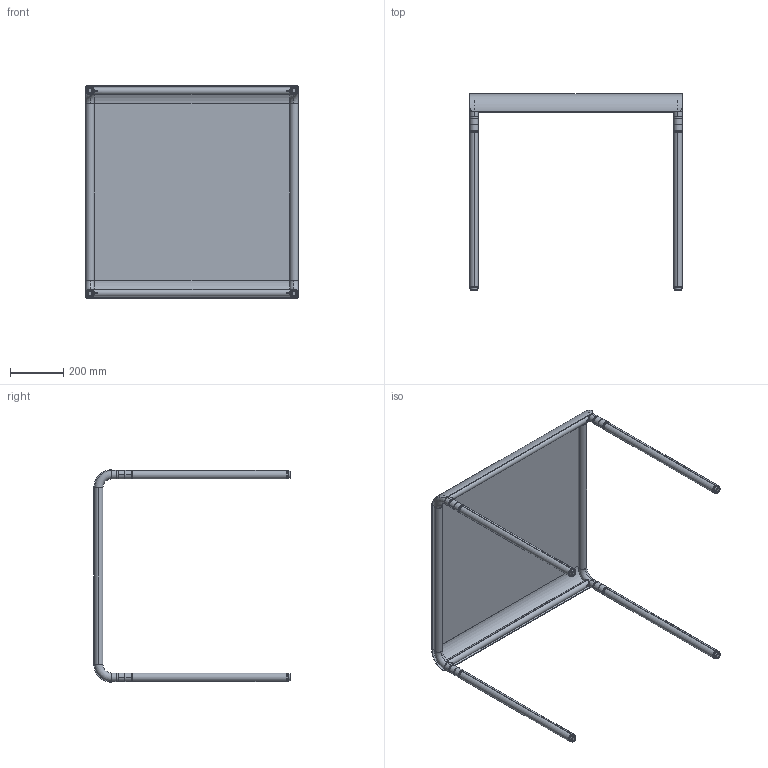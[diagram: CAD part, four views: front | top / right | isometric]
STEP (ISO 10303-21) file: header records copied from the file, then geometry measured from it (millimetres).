
FILE_DESCRIPTION (( 'STEP AP203' ), '1' );
FILE_NAME ('FER-00070.STEP', '2024-09-08T02:59:16', ( '' ), ( '' ), 'SwSTEP 2.0', 'SolidWorks 2018', '' );
FILE_SCHEMA (( 'CONFIG_CONTROL_DESIGN' ));
Length unit declared in the file: millimetre
Products named in the file (13): FER-00070-1-2-2; FER-00069-2_Defaut; FER-00069-2-2; FER-00070-1-2-1_Default<As Machined>; FER-00070-1-3_Default<As Machined>; NNB8X30-25X8_NCBDM8x30; FER-00070; FER-00069-2-1_Default<As Machined>; FER-00070-1_Defaut; FER-00070-1-2_Defaut; FER-00070-1-1_Without Hole; FER-00069-2-3; TR8_MirrorRut T2mm
Assembly tree (21 placements, depth 4):
  FER-00070
    FER-00070-1_Defaut
      FER-00070-1-1_Without Hole
      FER-00070-1-2_Defaut  x2
        FER-00070-1-2-1_Default<As Machined>
        FER-00070-1-2-2
      FER-00070-1-3_Default<As Machined>  x2
    FER-00069-2_Defaut  x4
      FER-00069-2-1_Default<As Machined>
      FER-00069-2-2
      FER-00069-2-3
      TR8_MirrorRut T2mm
    NNB8X30-25X8_NCBDM8x30  x4
Bounding box: 800 x 740 x 800 mm (x, y, z)
Volume: 2720683.3 mm3; surface area: 2489509.3 mm2
Topology: 29 solids, 29 shells, 430 faces, 966 edges, 626 vertices
Faces by surface type: cylinder 192, plane 98, cone 96, torus 32, bspline 12
Entity records: 7629 total; most frequent: CARTESIAN_POINT 2710, DIRECTION 731, ORIENTED_EDGE 664, EDGE_CURVE 332, AXIS2_PLACEMENT_3D 315, VERTEX_POINT 219, EDGE_LOOP 161, CIRCLE 158
